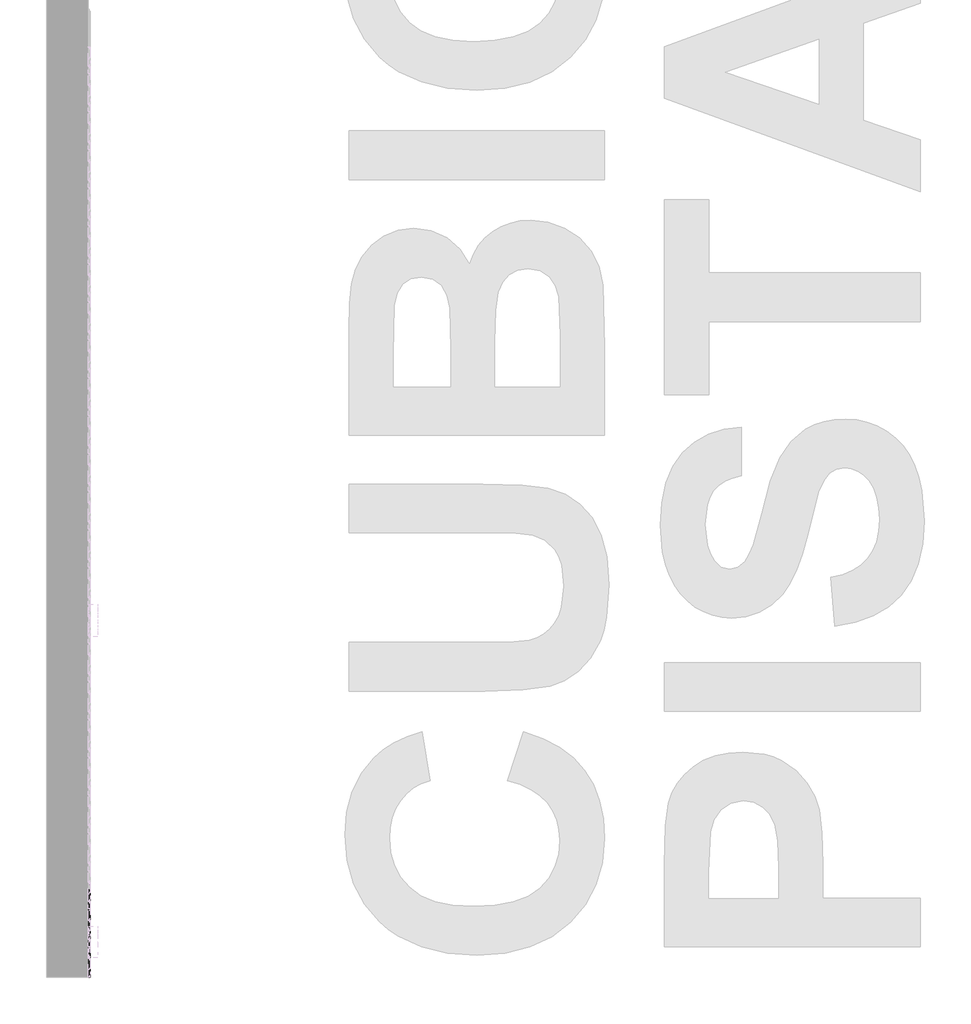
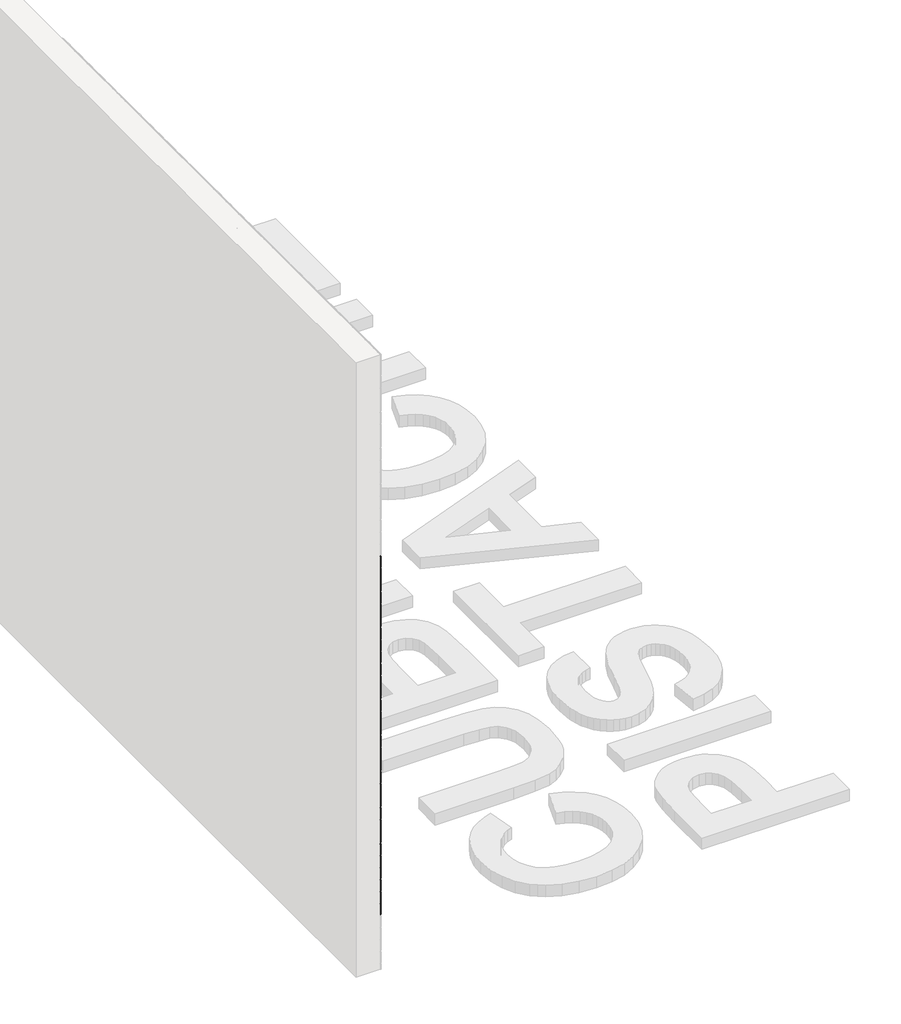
# One storey, part 74 of 121: 145 proxies.
"""IFC4 building model written with IfcOpenShell, lengths in millimetres."""

from ifc_helpers import new_model, si_unit, origin, place, context, project, spatial, transform, mapped, element, save
from components import generic_models_b2b2c5c1, generic_models_9bf73f6f, generic_models_5d175859, generic_models_45888c4d

model = new_model("IFC4")

# Units and contexts
model_context = context("Model", 3, world=origin())
ifc_project = project(units=[si_unit("LENGTHUNIT", "METRE", prefix="MILLI")], contexts=[model_context])

# Site, building, storey
site = spatial("IfcSite", under=ifc_project)
building = spatial("IfcBuilding", under=site)
storey = spatial("IfcBuildingStorey", under=building, Name="PORTOBELLO - SHOWROOM", Elevation=0.0)

# Proxies
placement = place(None, origin())
generic_models_shape = generic_models_b2b2c5c1(model_context)
element("IfcBuildingElementProxy", 1, Name="PBSHOP - CUBICA PISTACHE 4,8X8,3 : CUBICA PISTACHE - POSIÇÃO 01", ObjectType="PBSHOP - CUBICA PISTACHE 4,8X8,3 : CUBICA PISTACHE - POSIÇÃO 01", at=placement, inside=storey, context=model_context, shape_type="MappedRepresentation", body=[
    mapped(generic_models_shape, transform((150369.5341846, 12796.5477456, 355.1607203), x_axis=(0.0, 1.0, 0.0), y_axis=(0.0, 0.0, 1.0), z_axis=(1.0, 0.0, 0.0))),
])
element("IfcBuildingElementProxy", 2, Name="PBSHOP - CUBICA PISTACHE 4,8X8,3 : CUBICA PISTACHE - POSIÇÃO 01", ObjectType="PBSHOP - CUBICA PISTACHE 4,8X8,3 : CUBICA PISTACHE - POSIÇÃO 01", at=placement, inside=storey, context=model_context, shape_type="MappedRepresentation", body=[
    mapped(generic_models_shape, transform((150369.5341846, 12887.3870148, 355.1607203), x_axis=(0.0, 1.0, 0.0), y_axis=(0.0, 0.0, 1.0), z_axis=(1.0, 0.0, 0.0))),
])
element("IfcBuildingElementProxy", 3, Name="PBSHOP - CUBICA PISTACHE 4,8X8,3 : CUBICA PISTACHE - POSIÇÃO 01", ObjectType="PBSHOP - CUBICA PISTACHE 4,8X8,3 : CUBICA PISTACHE - POSIÇÃO 01", at=placement, inside=storey, context=model_context, shape_type="MappedRepresentation", body=[
    mapped(generic_models_shape, transform((150369.5341846, 12978.2262841, 355.1607203), x_axis=(0.0, 1.0, 0.0), y_axis=(0.0, 0.0, 1.0), z_axis=(1.0, 0.0, 0.0))),
])
element("IfcBuildingElementProxy", 4, Name="PBSHOP - CUBICA PISTACHE 4,8X8,3 : CUBICA PISTACHE - POSIÇÃO 01", ObjectType="PBSHOP - CUBICA PISTACHE 4,8X8,3 : CUBICA PISTACHE - POSIÇÃO 01", at=placement, inside=storey, context=model_context, shape_type="MappedRepresentation", body=[
    mapped(generic_models_shape, transform((150369.5341846, 12841.9673802, 434.0953587), x_axis=(0.0, 1.0, 0.0), y_axis=(0.0, 0.0, 1.0), z_axis=(1.0, 0.0, 0.0))),
])
element("IfcBuildingElementProxy", 5, Name="PBSHOP - CUBICA PISTACHE 4,8X8,3 : CUBICA PISTACHE - POSIÇÃO 01", ObjectType="PBSHOP - CUBICA PISTACHE 4,8X8,3 : CUBICA PISTACHE - POSIÇÃO 01", at=placement, inside=storey, context=model_context, shape_type="MappedRepresentation", body=[
    mapped(generic_models_shape, transform((150369.5341846, 12932.8066494, 434.0953587), x_axis=(0.0, 1.0, 0.0), y_axis=(0.0, 0.0, 1.0), z_axis=(1.0, 0.0, 0.0))),
])
element("IfcBuildingElementProxy", 6, Name="PBSHOP - CUBICA PISTACHE 4,8X8,3 : CUBICA PISTACHE - POSIÇÃO 01", ObjectType="PBSHOP - CUBICA PISTACHE 4,8X8,3 : CUBICA PISTACHE - POSIÇÃO 01", at=placement, inside=storey, context=model_context, shape_type="MappedRepresentation", body=[
    mapped(generic_models_shape, transform((150369.5341846, 12796.5477456, 513.0299971), x_axis=(0.0, 1.0, 0.0), y_axis=(0.0, 0.0, 1.0), z_axis=(1.0, 0.0, 0.0))),
])
element("IfcBuildingElementProxy", 7, Name="PBSHOP - CUBICA PISTACHE 4,8X8,3 : CUBICA PISTACHE - POSIÇÃO 01", ObjectType="PBSHOP - CUBICA PISTACHE 4,8X8,3 : CUBICA PISTACHE - POSIÇÃO 01", at=placement, inside=storey, context=model_context, shape_type="MappedRepresentation", body=[
    mapped(generic_models_shape, transform((150369.5341846, 12887.3870148, 513.0299971), x_axis=(0.0, 1.0, 0.0), y_axis=(0.0, 0.0, 1.0), z_axis=(1.0, 0.0, 0.0))),
])
element("IfcBuildingElementProxy", 8, Name="PBSHOP - CUBICA PISTACHE 4,8X8,3 : CUBICA PISTACHE - POSIÇÃO 01", ObjectType="PBSHOP - CUBICA PISTACHE 4,8X8,3 : CUBICA PISTACHE - POSIÇÃO 01", at=placement, inside=storey, context=model_context, shape_type="MappedRepresentation", body=[
    mapped(generic_models_shape, transform((150369.5341846, 12978.2262841, 513.0299971), x_axis=(0.0, 1.0, 0.0), y_axis=(0.0, 0.0, 1.0), z_axis=(1.0, 0.0, 0.0))),
])
element("IfcBuildingElementProxy", 9, Name="PBSHOP - CUBICA PISTACHE 4,8X8,3 : CUBICA PISTACHE - POSIÇÃO 01", ObjectType="PBSHOP - CUBICA PISTACHE 4,8X8,3 : CUBICA PISTACHE - POSIÇÃO 01", at=placement, inside=storey, context=model_context, shape_type="MappedRepresentation", body=[
    mapped(generic_models_shape, transform((150369.5341846, 12841.9673802, 591.9646354), x_axis=(0.0, 1.0, 0.0), y_axis=(0.0, 0.0, 1.0), z_axis=(1.0, 0.0, 0.0))),
])
element("IfcBuildingElementProxy", 10, Name="PBSHOP - CUBICA PISTACHE 4,8X8,3 : CUBICA PISTACHE - POSIÇÃO 01", ObjectType="PBSHOP - CUBICA PISTACHE 4,8X8,3 : CUBICA PISTACHE - POSIÇÃO 01", at=placement, inside=storey, context=model_context, shape_type="MappedRepresentation", body=[
    mapped(generic_models_shape, transform((150369.5341846, 12932.8066494, 591.9646354), x_axis=(0.0, 1.0, 0.0), y_axis=(0.0, 0.0, 1.0), z_axis=(1.0, 0.0, 0.0))),
])
element("IfcBuildingElementProxy", 11, Name="PBSHOP - CUBICA PISTACHE 4,8X8,3 : CUBICA PISTACHE - POSIÇÃO 01", ObjectType="PBSHOP - CUBICA PISTACHE 4,8X8,3 : CUBICA PISTACHE - POSIÇÃO 01", at=placement, inside=storey, context=model_context, shape_type="MappedRepresentation", body=[
    mapped(generic_models_shape, transform((150369.5341846, 12796.5477456, 670.8992738), x_axis=(0.0, 1.0, 0.0), y_axis=(0.0, 0.0, 1.0), z_axis=(1.0, 0.0, 0.0))),
])
element("IfcBuildingElementProxy", 12, Name="PBSHOP - CUBICA PISTACHE 4,8X8,3 : CUBICA PISTACHE - POSIÇÃO 01", ObjectType="PBSHOP - CUBICA PISTACHE 4,8X8,3 : CUBICA PISTACHE - POSIÇÃO 01", at=placement, inside=storey, context=model_context, shape_type="MappedRepresentation", body=[
    mapped(generic_models_shape, transform((150369.5341846, 12887.3870148, 670.8992738), x_axis=(0.0, 1.0, 0.0), y_axis=(0.0, 0.0, 1.0), z_axis=(1.0, 0.0, 0.0))),
])
element("IfcBuildingElementProxy", 13, Name="PBSHOP - CUBICA PISTACHE 4,8X8,3 : CUBICA PISTACHE - POSIÇÃO 01", ObjectType="PBSHOP - CUBICA PISTACHE 4,8X8,3 : CUBICA PISTACHE - POSIÇÃO 01", at=placement, inside=storey, context=model_context, shape_type="MappedRepresentation", body=[
    mapped(generic_models_shape, transform((150369.5341846, 12978.2262841, 670.8992738), x_axis=(0.0, 1.0, 0.0), y_axis=(0.0, 0.0, 1.0), z_axis=(1.0, 0.0, 0.0))),
])
element("IfcBuildingElementProxy", 14, Name="PBSHOP - CUBICA PISTACHE 4,8X8,3 : CUBICA PISTACHE - POSIÇÃO 01", ObjectType="PBSHOP - CUBICA PISTACHE 4,8X8,3 : CUBICA PISTACHE - POSIÇÃO 01", at=placement, inside=storey, context=model_context, shape_type="MappedRepresentation", body=[
    mapped(generic_models_shape, transform((150369.5341846, 12841.9673802, 749.8339122), x_axis=(0.0, 1.0, 0.0), y_axis=(0.0, 0.0, 1.0), z_axis=(1.0, 0.0, 0.0))),
])
element("IfcBuildingElementProxy", 15, Name="PBSHOP - CUBICA PISTACHE 4,8X8,3 : CUBICA PISTACHE - POSIÇÃO 01", ObjectType="PBSHOP - CUBICA PISTACHE 4,8X8,3 : CUBICA PISTACHE - POSIÇÃO 01", at=placement, inside=storey, context=model_context, shape_type="MappedRepresentation", body=[
    mapped(generic_models_shape, transform((150369.5341846, 12932.8066494, 749.8339122), x_axis=(0.0, 1.0, 0.0), y_axis=(0.0, 0.0, 1.0), z_axis=(1.0, 0.0, 0.0))),
])
element("IfcBuildingElementProxy", 16, Name="PBSHOP - CUBICA PISTACHE 4,8X8,3 : CUBICA PISTACHE - POSIÇÃO 01", ObjectType="PBSHOP - CUBICA PISTACHE 4,8X8,3 : CUBICA PISTACHE - POSIÇÃO 01", at=placement, inside=storey, context=model_context, shape_type="MappedRepresentation", body=[
    mapped(generic_models_shape, transform((150369.5341846, 12796.5477456, 828.7685506), x_axis=(0.0, 1.0, 0.0), y_axis=(0.0, 0.0, 1.0), z_axis=(1.0, 0.0, 0.0))),
])
element("IfcBuildingElementProxy", 17, Name="PBSHOP - CUBICA PISTACHE 4,8X8,3 : CUBICA PISTACHE - POSIÇÃO 01", ObjectType="PBSHOP - CUBICA PISTACHE 4,8X8,3 : CUBICA PISTACHE - POSIÇÃO 01", at=placement, inside=storey, context=model_context, shape_type="MappedRepresentation", body=[
    mapped(generic_models_shape, transform((150369.5341846, 12887.3870148, 828.7685506), x_axis=(0.0, 1.0, 0.0), y_axis=(0.0, 0.0, 1.0), z_axis=(1.0, 0.0, 0.0))),
])
element("IfcBuildingElementProxy", 18, Name="PBSHOP - CUBICA PISTACHE 4,8X8,3 : CUBICA PISTACHE - POSIÇÃO 01", ObjectType="PBSHOP - CUBICA PISTACHE 4,8X8,3 : CUBICA PISTACHE - POSIÇÃO 01", at=placement, inside=storey, context=model_context, shape_type="MappedRepresentation", body=[
    mapped(generic_models_shape, transform((150369.5341846, 12978.2262841, 828.7685506), x_axis=(0.0, 1.0, 0.0), y_axis=(0.0, 0.0, 1.0), z_axis=(1.0, 0.0, 0.0))),
])
element("IfcBuildingElementProxy", 19, Name="PBSHOP - CUBICA PISTACHE 4,8X8,3 : CUBICA PISTACHE - POSIÇÃO 01", ObjectType="PBSHOP - CUBICA PISTACHE 4,8X8,3 : CUBICA PISTACHE - POSIÇÃO 01", at=placement, inside=storey, context=model_context, shape_type="MappedRepresentation", body=[
    mapped(generic_models_shape, transform((150369.5341846, 12841.9673802, 907.7031889), x_axis=(0.0, 1.0, 0.0), y_axis=(0.0, 0.0, 1.0), z_axis=(1.0, 0.0, 0.0))),
])
element("IfcBuildingElementProxy", 20, Name="PBSHOP - CUBICA PISTACHE 4,8X8,3 : CUBICA PISTACHE - POSIÇÃO 01", ObjectType="PBSHOP - CUBICA PISTACHE 4,8X8,3 : CUBICA PISTACHE - POSIÇÃO 01", at=placement, inside=storey, context=model_context, shape_type="MappedRepresentation", body=[
    mapped(generic_models_shape, transform((150369.5341846, 12932.8066494, 907.7031889), x_axis=(0.0, 1.0, 0.0), y_axis=(0.0, 0.0, 1.0), z_axis=(1.0, 0.0, 0.0))),
])
element("IfcBuildingElementProxy", 21, Name="PBSHOP - CUBICA PISTACHE 4,8X8,3 : CUBICA PISTACHE - POSIÇÃO 01", ObjectType="PBSHOP - CUBICA PISTACHE 4,8X8,3 : CUBICA PISTACHE - POSIÇÃO 01", at=placement, inside=storey, context=model_context, shape_type="MappedRepresentation", body=[
    mapped(generic_models_shape, transform((150369.5341846, 12796.5477456, 986.6378273), x_axis=(0.0, 1.0, 0.0), y_axis=(0.0, 0.0, 1.0), z_axis=(1.0, 0.0, 0.0))),
])
element("IfcBuildingElementProxy", 22, Name="PBSHOP - CUBICA PISTACHE 4,8X8,3 : CUBICA PISTACHE - POSIÇÃO 01", ObjectType="PBSHOP - CUBICA PISTACHE 4,8X8,3 : CUBICA PISTACHE - POSIÇÃO 01", at=placement, inside=storey, context=model_context, shape_type="MappedRepresentation", body=[
    mapped(generic_models_shape, transform((150369.5341846, 12887.3870148, 986.6378273), x_axis=(0.0, 1.0, 0.0), y_axis=(0.0, 0.0, 1.0), z_axis=(1.0, 0.0, 0.0))),
])
element("IfcBuildingElementProxy", 23, Name="PBSHOP - CUBICA PISTACHE 4,8X8,3 : CUBICA PISTACHE - POSIÇÃO 01", ObjectType="PBSHOP - CUBICA PISTACHE 4,8X8,3 : CUBICA PISTACHE - POSIÇÃO 01", at=placement, inside=storey, context=model_context, shape_type="MappedRepresentation", body=[
    mapped(generic_models_shape, transform((150369.5341846, 12978.2262841, 986.6378273), x_axis=(0.0, 1.0, 0.0), y_axis=(0.0, 0.0, 1.0), z_axis=(1.0, 0.0, 0.0))),
])
element("IfcBuildingElementProxy", 24, Name="PBSHOP - CUBICA PISTACHE 4,8X8,3 : CUBICA PISTACHE - POSIÇÃO 01", ObjectType="PBSHOP - CUBICA PISTACHE 4,8X8,3 : CUBICA PISTACHE - POSIÇÃO 01", at=placement, inside=storey, context=model_context, shape_type="MappedRepresentation", body=[
    mapped(generic_models_shape, transform((150369.5341846, 12841.9673802, 1065.5724657), x_axis=(0.0, 1.0, 0.0), y_axis=(0.0, 0.0, 1.0), z_axis=(1.0, 0.0, 0.0))),
])
element("IfcBuildingElementProxy", 25, Name="PBSHOP - CUBICA PISTACHE 4,8X8,3 : CUBICA PISTACHE - POSIÇÃO 01", ObjectType="PBSHOP - CUBICA PISTACHE 4,8X8,3 : CUBICA PISTACHE - POSIÇÃO 01", at=placement, inside=storey, context=model_context, shape_type="MappedRepresentation", body=[
    mapped(generic_models_shape, transform((150369.5341846, 12932.8066494, 1065.5724657), x_axis=(0.0, 1.0, 0.0), y_axis=(0.0, 0.0, 1.0), z_axis=(1.0, 0.0, 0.0))),
])
element("IfcBuildingElementProxy", 26, Name="PBSHOP - CUBICA PISTACHE 4,8X8,3 : CUBICA PISTACHE - POSIÇÃO 01", ObjectType="PBSHOP - CUBICA PISTACHE 4,8X8,3 : CUBICA PISTACHE - POSIÇÃO 01", at=placement, inside=storey, context=model_context, shape_type="MappedRepresentation", body=[
    mapped(generic_models_shape, transform((150369.5341846, 12796.5477456, 1144.507104), x_axis=(0.0, 1.0, 0.0), y_axis=(0.0, 0.0, 1.0), z_axis=(1.0, 0.0, 0.0))),
])
element("IfcBuildingElementProxy", 27, Name="PBSHOP - CUBICA PISTACHE 4,8X8,3 : CUBICA PISTACHE - POSIÇÃO 01", ObjectType="PBSHOP - CUBICA PISTACHE 4,8X8,3 : CUBICA PISTACHE - POSIÇÃO 01", at=placement, inside=storey, context=model_context, shape_type="MappedRepresentation", body=[
    mapped(generic_models_shape, transform((150369.5341846, 12887.3870148, 1144.507104), x_axis=(0.0, 1.0, 0.0), y_axis=(0.0, 0.0, 1.0), z_axis=(1.0, 0.0, 0.0))),
])
element("IfcBuildingElementProxy", 28, Name="PBSHOP - CUBICA PISTACHE 4,8X8,3 : CUBICA PISTACHE - POSIÇÃO 01", ObjectType="PBSHOP - CUBICA PISTACHE 4,8X8,3 : CUBICA PISTACHE - POSIÇÃO 01", at=placement, inside=storey, context=model_context, shape_type="MappedRepresentation", body=[
    mapped(generic_models_shape, transform((150369.5341846, 12978.2262841, 1144.507104), x_axis=(0.0, 1.0, 0.0), y_axis=(0.0, 0.0, 1.0), z_axis=(1.0, 0.0, 0.0))),
])
element("IfcBuildingElementProxy", 29, Name="PBSHOP - CUBICA PISTACHE 4,8X8,3 : CUBICA PISTACHE - POSIÇÃO 01", ObjectType="PBSHOP - CUBICA PISTACHE 4,8X8,3 : CUBICA PISTACHE - POSIÇÃO 01", at=placement, inside=storey, context=model_context, shape_type="MappedRepresentation", body=[
    mapped(generic_models_shape, transform((150369.5341846, 12841.9673802, 1223.4417424), x_axis=(0.0, 1.0, 0.0), y_axis=(0.0, 0.0, 1.0), z_axis=(1.0, 0.0, 0.0))),
])
element("IfcBuildingElementProxy", 30, Name="PBSHOP - CUBICA PISTACHE 4,8X8,3 : CUBICA PISTACHE - POSIÇÃO 01", ObjectType="PBSHOP - CUBICA PISTACHE 4,8X8,3 : CUBICA PISTACHE - POSIÇÃO 01", at=placement, inside=storey, context=model_context, shape_type="MappedRepresentation", body=[
    mapped(generic_models_shape, transform((150369.5341846, 12932.8066494, 1223.4417424), x_axis=(0.0, 1.0, 0.0), y_axis=(0.0, 0.0, 1.0), z_axis=(1.0, 0.0, 0.0))),
])
element("IfcBuildingElementProxy", 31, Name="PBSHOP - CUBICA PISTACHE 4,8X8,3 : CUBICA PISTACHE - POSIÇÃO 01", ObjectType="PBSHOP - CUBICA PISTACHE 4,8X8,3 : CUBICA PISTACHE - POSIÇÃO 01", at=placement, inside=storey, context=model_context, shape_type="MappedRepresentation", body=[
    mapped(generic_models_shape, transform((150369.5341846, 12796.5477456, 1302.3763808), x_axis=(0.0, 1.0, 0.0), y_axis=(0.0, 0.0, 1.0), z_axis=(1.0, 0.0, 0.0))),
])
element("IfcBuildingElementProxy", 32, Name="PBSHOP - CUBICA PISTACHE 4,8X8,3 : CUBICA PISTACHE - POSIÇÃO 01", ObjectType="PBSHOP - CUBICA PISTACHE 4,8X8,3 : CUBICA PISTACHE - POSIÇÃO 01", at=placement, inside=storey, context=model_context, shape_type="MappedRepresentation", body=[
    mapped(generic_models_shape, transform((150369.5341846, 12887.3870148, 1302.3763808), x_axis=(0.0, 1.0, 0.0), y_axis=(0.0, 0.0, 1.0), z_axis=(1.0, 0.0, 0.0))),
])
element("IfcBuildingElementProxy", 33, Name="PBSHOP - CUBICA PISTACHE 4,8X8,3 : CUBICA PISTACHE - POSIÇÃO 01", ObjectType="PBSHOP - CUBICA PISTACHE 4,8X8,3 : CUBICA PISTACHE - POSIÇÃO 01", at=placement, inside=storey, context=model_context, shape_type="MappedRepresentation", body=[
    mapped(generic_models_shape, transform((150369.5341846, 12978.2262841, 1302.3763808), x_axis=(0.0, 1.0, 0.0), y_axis=(0.0, 0.0, 1.0), z_axis=(1.0, 0.0, 0.0))),
])
element("IfcBuildingElementProxy", 34, Name="PBSHOP - CUBICA PISTACHE 4,8X8,3 : CUBICA PISTACHE - POSIÇÃO 01", ObjectType="PBSHOP - CUBICA PISTACHE 4,8X8,3 : CUBICA PISTACHE - POSIÇÃO 01", at=placement, inside=storey, context=model_context, shape_type="MappedRepresentation", body=[
    mapped(generic_models_shape, transform((150369.5341846, 12841.9673802, 1381.3110192), x_axis=(0.0, 1.0, 0.0), y_axis=(0.0, 0.0, 1.0), z_axis=(1.0, 0.0, 0.0))),
])
element("IfcBuildingElementProxy", 35, Name="PBSHOP - CUBICA PISTACHE 4,8X8,3 : CUBICA PISTACHE - POSIÇÃO 01", ObjectType="PBSHOP - CUBICA PISTACHE 4,8X8,3 : CUBICA PISTACHE - POSIÇÃO 01", at=placement, inside=storey, context=model_context, shape_type="MappedRepresentation", body=[
    mapped(generic_models_shape, transform((150369.5341846, 12932.8066494, 1381.3110192), x_axis=(0.0, 1.0, 0.0), y_axis=(0.0, 0.0, 1.0), z_axis=(1.0, 0.0, 0.0))),
])
element("IfcBuildingElementProxy", 36, Name="PBSHOP - CUBICA PISTACHE 4,8X8,3 : CUBICA PISTACHE - POSIÇÃO 01", ObjectType="PBSHOP - CUBICA PISTACHE 4,8X8,3 : CUBICA PISTACHE - POSIÇÃO 01", at=placement, inside=storey, context=model_context, shape_type="MappedRepresentation", body=[
    mapped(generic_models_shape, transform((150369.5341846, 12796.5477456, 1460.2456575), x_axis=(0.0, 1.0, 0.0), y_axis=(0.0, 0.0, 1.0), z_axis=(1.0, 0.0, 0.0))),
])
element("IfcBuildingElementProxy", 37, Name="PBSHOP - CUBICA PISTACHE 4,8X8,3 : CUBICA PISTACHE - POSIÇÃO 01", ObjectType="PBSHOP - CUBICA PISTACHE 4,8X8,3 : CUBICA PISTACHE - POSIÇÃO 01", at=placement, inside=storey, context=model_context, shape_type="MappedRepresentation", body=[
    mapped(generic_models_shape, transform((150369.5341846, 12887.3870148, 1460.2456575), x_axis=(0.0, 1.0, 0.0), y_axis=(0.0, 0.0, 1.0), z_axis=(1.0, 0.0, 0.0))),
])
element("IfcBuildingElementProxy", 38, Name="PBSHOP - CUBICA PISTACHE 4,8X8,3 : CUBICA PISTACHE - POSIÇÃO 01", ObjectType="PBSHOP - CUBICA PISTACHE 4,8X8,3 : CUBICA PISTACHE - POSIÇÃO 01", at=placement, inside=storey, context=model_context, shape_type="MappedRepresentation", body=[
    mapped(generic_models_shape, transform((150369.5341846, 12978.2262841, 1460.2456575), x_axis=(0.0, 1.0, 0.0), y_axis=(0.0, 0.0, 1.0), z_axis=(1.0, 0.0, 0.0))),
])
element("IfcBuildingElementProxy", 39, Name="PBSHOP - CUBICA PISTACHE 4,8X8,3 : CUBICA PISTACHE - POSIÇÃO 01", ObjectType="PBSHOP - CUBICA PISTACHE 4,8X8,3 : CUBICA PISTACHE - POSIÇÃO 01", at=placement, inside=storey, context=model_context, shape_type="MappedRepresentation", body=[
    mapped(generic_models_shape, transform((150369.5341846, 12841.9673802, 1539.1802959), x_axis=(0.0, 1.0, 0.0), y_axis=(0.0, 0.0, 1.0), z_axis=(1.0, 0.0, 0.0))),
])
element("IfcBuildingElementProxy", 40, Name="PBSHOP - CUBICA PISTACHE 4,8X8,3 : CUBICA PISTACHE - POSIÇÃO 01", ObjectType="PBSHOP - CUBICA PISTACHE 4,8X8,3 : CUBICA PISTACHE - POSIÇÃO 01", at=placement, inside=storey, context=model_context, shape_type="MappedRepresentation", body=[
    mapped(generic_models_shape, transform((150369.5341846, 12932.8066494, 1539.1802959), x_axis=(0.0, 1.0, 0.0), y_axis=(0.0, 0.0, 1.0), z_axis=(1.0, 0.0, 0.0))),
])
element("IfcBuildingElementProxy", 41, Name="PBSHOP - CUBICA PISTACHE 4,8X8,3 : CUBICA PISTACHE - POSIÇÃO 01", ObjectType="PBSHOP - CUBICA PISTACHE 4,8X8,3 : CUBICA PISTACHE - POSIÇÃO 01", at=placement, inside=storey, context=model_context, shape_type="MappedRepresentation", body=[
    mapped(generic_models_shape, transform((150369.5341846, 12796.5477456, 1618.1149343), x_axis=(0.0, 1.0, 0.0), y_axis=(0.0, 0.0, 1.0), z_axis=(1.0, 0.0, 0.0))),
])
element("IfcBuildingElementProxy", 42, Name="PBSHOP - CUBICA PISTACHE 4,8X8,3 : CUBICA PISTACHE - POSIÇÃO 01", ObjectType="PBSHOP - CUBICA PISTACHE 4,8X8,3 : CUBICA PISTACHE - POSIÇÃO 01", at=placement, inside=storey, context=model_context, shape_type="MappedRepresentation", body=[
    mapped(generic_models_shape, transform((150369.5341846, 12887.3870148, 1618.1149343), x_axis=(0.0, 1.0, 0.0), y_axis=(0.0, 0.0, 1.0), z_axis=(1.0, 0.0, 0.0))),
])
element("IfcBuildingElementProxy", 43, Name="PBSHOP - CUBICA PISTACHE 4,8X8,3 : CUBICA PISTACHE - POSIÇÃO 01", ObjectType="PBSHOP - CUBICA PISTACHE 4,8X8,3 : CUBICA PISTACHE - POSIÇÃO 01", at=placement, inside=storey, context=model_context, shape_type="MappedRepresentation", body=[
    mapped(generic_models_shape, transform((150369.5341846, 12978.2262841, 1618.1149343), x_axis=(0.0, 1.0, 0.0), y_axis=(0.0, 0.0, 1.0), z_axis=(1.0, 0.0, 0.0))),
])
element("IfcBuildingElementProxy", 44, Name="PBSHOP - CUBICA PISTACHE 4,8X8,3 : CUBICA PISTACHE - POSIÇÃO 01", ObjectType="PBSHOP - CUBICA PISTACHE 4,8X8,3 : CUBICA PISTACHE - POSIÇÃO 01", at=placement, inside=storey, context=model_context, shape_type="MappedRepresentation", body=[
    mapped(generic_models_shape, transform((150369.5341846, 12841.9673802, 1697.0495727), x_axis=(0.0, 1.0, 0.0), y_axis=(0.0, 0.0, 1.0), z_axis=(1.0, 0.0, 0.0))),
])
element("IfcBuildingElementProxy", 45, Name="PBSHOP - CUBICA PISTACHE 4,8X8,3 : CUBICA PISTACHE - POSIÇÃO 01", ObjectType="PBSHOP - CUBICA PISTACHE 4,8X8,3 : CUBICA PISTACHE - POSIÇÃO 01", at=placement, inside=storey, context=model_context, shape_type="MappedRepresentation", body=[
    mapped(generic_models_shape, transform((150369.5341846, 12932.8066494, 1697.0495727), x_axis=(0.0, 1.0, 0.0), y_axis=(0.0, 0.0, 1.0), z_axis=(1.0, 0.0, 0.0))),
])
element("IfcBuildingElementProxy", 46, Name="PBSHOP - CUBICA PISTACHE 4,8X8,3 : CUBICA PISTACHE - POSIÇÃO 01", ObjectType="PBSHOP - CUBICA PISTACHE 4,8X8,3 : CUBICA PISTACHE - POSIÇÃO 01", at=placement, inside=storey, context=model_context, shape_type="MappedRepresentation", body=[
    mapped(generic_models_shape, transform((150369.5341846, 12796.5477456, 1775.984211), x_axis=(0.0, 1.0, 0.0), y_axis=(0.0, 0.0, 1.0), z_axis=(1.0, 0.0, 0.0))),
])
element("IfcBuildingElementProxy", 47, Name="PBSHOP - CUBICA PISTACHE 4,8X8,3 : CUBICA PISTACHE - POSIÇÃO 01", ObjectType="PBSHOP - CUBICA PISTACHE 4,8X8,3 : CUBICA PISTACHE - POSIÇÃO 01", at=placement, inside=storey, context=model_context, shape_type="MappedRepresentation", body=[
    mapped(generic_models_shape, transform((150369.5341846, 12887.3870148, 1775.984211), x_axis=(0.0, 1.0, 0.0), y_axis=(0.0, 0.0, 1.0), z_axis=(1.0, 0.0, 0.0))),
])
element("IfcBuildingElementProxy", 48, Name="PBSHOP - CUBICA PISTACHE 4,8X8,3 : CUBICA PISTACHE - POSIÇÃO 01", ObjectType="PBSHOP - CUBICA PISTACHE 4,8X8,3 : CUBICA PISTACHE - POSIÇÃO 01", at=placement, inside=storey, context=model_context, shape_type="MappedRepresentation", body=[
    mapped(generic_models_shape, transform((150369.5341846, 12978.2262841, 1775.984211), x_axis=(0.0, 1.0, 0.0), y_axis=(0.0, 0.0, 1.0), z_axis=(1.0, 0.0, 0.0))),
])
generic_models_2_shape = generic_models_9bf73f6f(model_context)
element("IfcBuildingElementProxy", 49, Name="PBSHOP - CUBICA PISTACHE 4,8X8,3 : CUBICA PISTACHE - POSIÇÃO 03", ObjectType="PBSHOP - CUBICA PISTACHE 4,8X8,3 : CUBICA PISTACHE - POSIÇÃO 03", at=placement, inside=storey, context=model_context, shape_type="MappedRepresentation", body=[
    mapped(generic_models_2_shape, transform((150369.5341846, 12819.259722, 236.7175523), x_axis=(0.0, 1.0, 0.0), y_axis=(0.0, 0.0, 1.0), z_axis=(1.0, 0.0, 0.0))),
])
element("IfcBuildingElementProxy", 50, Name="PBSHOP - CUBICA PISTACHE 4,8X8,3 : CUBICA PISTACHE - POSIÇÃO 03", ObjectType="PBSHOP - CUBICA PISTACHE 4,8X8,3 : CUBICA PISTACHE - POSIÇÃO 03", at=placement, inside=storey, context=model_context, shape_type="MappedRepresentation", body=[
    mapped(generic_models_2_shape, transform((150369.5341846, 12910.0989913, 236.7175523), x_axis=(0.0, 1.0, 0.0), y_axis=(0.0, 0.0, 1.0), z_axis=(1.0, 0.0, 0.0))),
])
element("IfcBuildingElementProxy", 51, Name="PBSHOP - CUBICA PISTACHE 4,8X8,3 : CUBICA PISTACHE - POSIÇÃO 03", ObjectType="PBSHOP - CUBICA PISTACHE 4,8X8,3 : CUBICA PISTACHE - POSIÇÃO 03", at=placement, inside=storey, context=model_context, shape_type="MappedRepresentation", body=[
    mapped(generic_models_2_shape, transform((150369.5341846, 12864.6793567, 315.6521907), x_axis=(0.0, 1.0, 0.0), y_axis=(0.0, 0.0, 1.0), z_axis=(1.0, 0.0, 0.0))),
])
element("IfcBuildingElementProxy", 52, Name="PBSHOP - CUBICA PISTACHE 4,8X8,3 : CUBICA PISTACHE - POSIÇÃO 03", ObjectType="PBSHOP - CUBICA PISTACHE 4,8X8,3 : CUBICA PISTACHE - POSIÇÃO 03", at=placement, inside=storey, context=model_context, shape_type="MappedRepresentation", body=[
    mapped(generic_models_2_shape, transform((150369.5341846, 12955.5186259, 315.6521907), x_axis=(0.0, 1.0, 0.0), y_axis=(0.0, 0.0, 1.0), z_axis=(1.0, 0.0, 0.0))),
])
element("IfcBuildingElementProxy", 53, Name="PBSHOP - CUBICA PISTACHE 4,8X8,3 : CUBICA PISTACHE - POSIÇÃO 03", ObjectType="PBSHOP - CUBICA PISTACHE 4,8X8,3 : CUBICA PISTACHE - POSIÇÃO 03", at=placement, inside=storey, context=model_context, shape_type="MappedRepresentation", body=[
    mapped(generic_models_2_shape, transform((150369.5341846, 12819.259722, 394.5868291), x_axis=(0.0, 1.0, 0.0), y_axis=(0.0, 0.0, 1.0), z_axis=(1.0, 0.0, 0.0))),
])
element("IfcBuildingElementProxy", 54, Name="PBSHOP - CUBICA PISTACHE 4,8X8,3 : CUBICA PISTACHE - POSIÇÃO 03", ObjectType="PBSHOP - CUBICA PISTACHE 4,8X8,3 : CUBICA PISTACHE - POSIÇÃO 03", at=placement, inside=storey, context=model_context, shape_type="MappedRepresentation", body=[
    mapped(generic_models_2_shape, transform((150369.5341846, 12910.0989913, 394.5868291), x_axis=(0.0, 1.0, 0.0), y_axis=(0.0, 0.0, 1.0), z_axis=(1.0, 0.0, 0.0))),
])
element("IfcBuildingElementProxy", 55, Name="PBSHOP - CUBICA PISTACHE 4,8X8,3 : CUBICA PISTACHE - POSIÇÃO 03", ObjectType="PBSHOP - CUBICA PISTACHE 4,8X8,3 : CUBICA PISTACHE - POSIÇÃO 03", at=placement, inside=storey, context=model_context, shape_type="MappedRepresentation", body=[
    mapped(generic_models_2_shape, transform((150369.5341846, 12864.6793567, 473.5214674), x_axis=(0.0, 1.0, 0.0), y_axis=(0.0, 0.0, 1.0), z_axis=(1.0, 0.0, 0.0))),
])
element("IfcBuildingElementProxy", 56, Name="PBSHOP - CUBICA PISTACHE 4,8X8,3 : CUBICA PISTACHE - POSIÇÃO 03", ObjectType="PBSHOP - CUBICA PISTACHE 4,8X8,3 : CUBICA PISTACHE - POSIÇÃO 03", at=placement, inside=storey, context=model_context, shape_type="MappedRepresentation", body=[
    mapped(generic_models_2_shape, transform((150369.5341846, 12955.5186259, 473.5214674), x_axis=(0.0, 1.0, 0.0), y_axis=(0.0, 0.0, 1.0), z_axis=(1.0, 0.0, 0.0))),
])
element("IfcBuildingElementProxy", 57, Name="PBSHOP - CUBICA PISTACHE 4,8X8,3 : CUBICA PISTACHE - POSIÇÃO 03", ObjectType="PBSHOP - CUBICA PISTACHE 4,8X8,3 : CUBICA PISTACHE - POSIÇÃO 03", at=placement, inside=storey, context=model_context, shape_type="MappedRepresentation", body=[
    mapped(generic_models_2_shape, transform((150369.5341846, 12819.259722, 552.4561058), x_axis=(0.0, 1.0, 0.0), y_axis=(0.0, 0.0, 1.0), z_axis=(1.0, 0.0, 0.0))),
])
element("IfcBuildingElementProxy", 58, Name="PBSHOP - CUBICA PISTACHE 4,8X8,3 : CUBICA PISTACHE - POSIÇÃO 03", ObjectType="PBSHOP - CUBICA PISTACHE 4,8X8,3 : CUBICA PISTACHE - POSIÇÃO 03", at=placement, inside=storey, context=model_context, shape_type="MappedRepresentation", body=[
    mapped(generic_models_2_shape, transform((150369.5341846, 12910.0989913, 552.4561058), x_axis=(0.0, 1.0, 0.0), y_axis=(0.0, 0.0, 1.0), z_axis=(1.0, 0.0, 0.0))),
])
element("IfcBuildingElementProxy", 59, Name="PBSHOP - CUBICA PISTACHE 4,8X8,3 : CUBICA PISTACHE - POSIÇÃO 03", ObjectType="PBSHOP - CUBICA PISTACHE 4,8X8,3 : CUBICA PISTACHE - POSIÇÃO 03", at=placement, inside=storey, context=model_context, shape_type="MappedRepresentation", body=[
    mapped(generic_models_2_shape, transform((150369.5341846, 12864.6793567, 631.3907442), x_axis=(0.0, 1.0, 0.0), y_axis=(0.0, 0.0, 1.0), z_axis=(1.0, 0.0, 0.0))),
])
element("IfcBuildingElementProxy", 60, Name="PBSHOP - CUBICA PISTACHE 4,8X8,3 : CUBICA PISTACHE - POSIÇÃO 03", ObjectType="PBSHOP - CUBICA PISTACHE 4,8X8,3 : CUBICA PISTACHE - POSIÇÃO 03", at=placement, inside=storey, context=model_context, shape_type="MappedRepresentation", body=[
    mapped(generic_models_2_shape, transform((150369.5341846, 12955.5186259, 631.3907442), x_axis=(0.0, 1.0, 0.0), y_axis=(0.0, 0.0, 1.0), z_axis=(1.0, 0.0, 0.0))),
])
element("IfcBuildingElementProxy", 61, Name="PBSHOP - CUBICA PISTACHE 4,8X8,3 : CUBICA PISTACHE - POSIÇÃO 03", ObjectType="PBSHOP - CUBICA PISTACHE 4,8X8,3 : CUBICA PISTACHE - POSIÇÃO 03", at=placement, inside=storey, context=model_context, shape_type="MappedRepresentation", body=[
    mapped(generic_models_2_shape, transform((150369.5341846, 12819.259722, 710.3253826), x_axis=(0.0, 1.0, 0.0), y_axis=(0.0, 0.0, 1.0), z_axis=(1.0, 0.0, 0.0))),
])
element("IfcBuildingElementProxy", 62, Name="PBSHOP - CUBICA PISTACHE 4,8X8,3 : CUBICA PISTACHE - POSIÇÃO 03", ObjectType="PBSHOP - CUBICA PISTACHE 4,8X8,3 : CUBICA PISTACHE - POSIÇÃO 03", at=placement, inside=storey, context=model_context, shape_type="MappedRepresentation", body=[
    mapped(generic_models_2_shape, transform((150369.5341846, 12910.0989913, 710.3253826), x_axis=(0.0, 1.0, 0.0), y_axis=(0.0, 0.0, 1.0), z_axis=(1.0, 0.0, 0.0))),
])
element("IfcBuildingElementProxy", 63, Name="PBSHOP - CUBICA PISTACHE 4,8X8,3 : CUBICA PISTACHE - POSIÇÃO 03", ObjectType="PBSHOP - CUBICA PISTACHE 4,8X8,3 : CUBICA PISTACHE - POSIÇÃO 03", at=placement, inside=storey, context=model_context, shape_type="MappedRepresentation", body=[
    mapped(generic_models_2_shape, transform((150369.5341846, 12864.6793567, 789.2600209), x_axis=(0.0, 1.0, 0.0), y_axis=(0.0, 0.0, 1.0), z_axis=(1.0, 0.0, 0.0))),
])
element("IfcBuildingElementProxy", 64, Name="PBSHOP - CUBICA PISTACHE 4,8X8,3 : CUBICA PISTACHE - POSIÇÃO 03", ObjectType="PBSHOP - CUBICA PISTACHE 4,8X8,3 : CUBICA PISTACHE - POSIÇÃO 03", at=placement, inside=storey, context=model_context, shape_type="MappedRepresentation", body=[
    mapped(generic_models_2_shape, transform((150369.5341846, 12955.5186259, 789.2600209), x_axis=(0.0, 1.0, 0.0), y_axis=(0.0, 0.0, 1.0), z_axis=(1.0, 0.0, 0.0))),
])
element("IfcBuildingElementProxy", 65, Name="PBSHOP - CUBICA PISTACHE 4,8X8,3 : CUBICA PISTACHE - POSIÇÃO 03", ObjectType="PBSHOP - CUBICA PISTACHE 4,8X8,3 : CUBICA PISTACHE - POSIÇÃO 03", at=placement, inside=storey, context=model_context, shape_type="MappedRepresentation", body=[
    mapped(generic_models_2_shape, transform((150369.5341846, 12819.259722, 868.1946593), x_axis=(0.0, 1.0, 0.0), y_axis=(0.0, 0.0, 1.0), z_axis=(1.0, 0.0, 0.0))),
])
element("IfcBuildingElementProxy", 66, Name="PBSHOP - CUBICA PISTACHE 4,8X8,3 : CUBICA PISTACHE - POSIÇÃO 03", ObjectType="PBSHOP - CUBICA PISTACHE 4,8X8,3 : CUBICA PISTACHE - POSIÇÃO 03", at=placement, inside=storey, context=model_context, shape_type="MappedRepresentation", body=[
    mapped(generic_models_2_shape, transform((150369.5341846, 12910.0989913, 868.1946593), x_axis=(0.0, 1.0, 0.0), y_axis=(0.0, 0.0, 1.0), z_axis=(1.0, 0.0, 0.0))),
])
element("IfcBuildingElementProxy", 67, Name="PBSHOP - CUBICA PISTACHE 4,8X8,3 : CUBICA PISTACHE - POSIÇÃO 03", ObjectType="PBSHOP - CUBICA PISTACHE 4,8X8,3 : CUBICA PISTACHE - POSIÇÃO 03", at=placement, inside=storey, context=model_context, shape_type="MappedRepresentation", body=[
    mapped(generic_models_2_shape, transform((150369.5341846, 12864.6793567, 947.1292977), x_axis=(0.0, 1.0, 0.0), y_axis=(0.0, 0.0, 1.0), z_axis=(1.0, 0.0, 0.0))),
])
element("IfcBuildingElementProxy", 68, Name="PBSHOP - CUBICA PISTACHE 4,8X8,3 : CUBICA PISTACHE - POSIÇÃO 03", ObjectType="PBSHOP - CUBICA PISTACHE 4,8X8,3 : CUBICA PISTACHE - POSIÇÃO 03", at=placement, inside=storey, context=model_context, shape_type="MappedRepresentation", body=[
    mapped(generic_models_2_shape, transform((150369.5341846, 12955.5186259, 947.1292977), x_axis=(0.0, 1.0, 0.0), y_axis=(0.0, 0.0, 1.0), z_axis=(1.0, 0.0, 0.0))),
])
element("IfcBuildingElementProxy", 69, Name="PBSHOP - CUBICA PISTACHE 4,8X8,3 : CUBICA PISTACHE - POSIÇÃO 03", ObjectType="PBSHOP - CUBICA PISTACHE 4,8X8,3 : CUBICA PISTACHE - POSIÇÃO 03", at=placement, inside=storey, context=model_context, shape_type="MappedRepresentation", body=[
    mapped(generic_models_2_shape, transform((150369.5341846, 12819.259722, 1026.0639361), x_axis=(0.0, 1.0, 0.0), y_axis=(0.0, 0.0, 1.0), z_axis=(1.0, 0.0, 0.0))),
])
element("IfcBuildingElementProxy", 70, Name="PBSHOP - CUBICA PISTACHE 4,8X8,3 : CUBICA PISTACHE - POSIÇÃO 03", ObjectType="PBSHOP - CUBICA PISTACHE 4,8X8,3 : CUBICA PISTACHE - POSIÇÃO 03", at=placement, inside=storey, context=model_context, shape_type="MappedRepresentation", body=[
    mapped(generic_models_2_shape, transform((150369.5341846, 12910.0989913, 1026.0639361), x_axis=(0.0, 1.0, 0.0), y_axis=(0.0, 0.0, 1.0), z_axis=(1.0, 0.0, 0.0))),
])
element("IfcBuildingElementProxy", 71, Name="PBSHOP - CUBICA PISTACHE 4,8X8,3 : CUBICA PISTACHE - POSIÇÃO 03", ObjectType="PBSHOP - CUBICA PISTACHE 4,8X8,3 : CUBICA PISTACHE - POSIÇÃO 03", at=placement, inside=storey, context=model_context, shape_type="MappedRepresentation", body=[
    mapped(generic_models_2_shape, transform((150369.5341846, 12864.6793567, 1104.9985744), x_axis=(0.0, 1.0, 0.0), y_axis=(0.0, 0.0, 1.0), z_axis=(1.0, 0.0, 0.0))),
])
element("IfcBuildingElementProxy", 72, Name="PBSHOP - CUBICA PISTACHE 4,8X8,3 : CUBICA PISTACHE - POSIÇÃO 03", ObjectType="PBSHOP - CUBICA PISTACHE 4,8X8,3 : CUBICA PISTACHE - POSIÇÃO 03", at=placement, inside=storey, context=model_context, shape_type="MappedRepresentation", body=[
    mapped(generic_models_2_shape, transform((150369.5341846, 12955.5186259, 1104.9985744), x_axis=(0.0, 1.0, 0.0), y_axis=(0.0, 0.0, 1.0), z_axis=(1.0, 0.0, 0.0))),
])
element("IfcBuildingElementProxy", 73, Name="PBSHOP - CUBICA PISTACHE 4,8X8,3 : CUBICA PISTACHE - POSIÇÃO 03", ObjectType="PBSHOP - CUBICA PISTACHE 4,8X8,3 : CUBICA PISTACHE - POSIÇÃO 03", at=placement, inside=storey, context=model_context, shape_type="MappedRepresentation", body=[
    mapped(generic_models_2_shape, transform((150369.5341846, 12819.259722, 1183.9332128), x_axis=(0.0, 1.0, 0.0), y_axis=(0.0, 0.0, 1.0), z_axis=(1.0, 0.0, 0.0))),
])
element("IfcBuildingElementProxy", 74, Name="PBSHOP - CUBICA PISTACHE 4,8X8,3 : CUBICA PISTACHE - POSIÇÃO 03", ObjectType="PBSHOP - CUBICA PISTACHE 4,8X8,3 : CUBICA PISTACHE - POSIÇÃO 03", at=placement, inside=storey, context=model_context, shape_type="MappedRepresentation", body=[
    mapped(generic_models_2_shape, transform((150369.5341846, 12910.0989913, 1183.9332128), x_axis=(0.0, 1.0, 0.0), y_axis=(0.0, 0.0, 1.0), z_axis=(1.0, 0.0, 0.0))),
])
element("IfcBuildingElementProxy", 75, Name="PBSHOP - CUBICA PISTACHE 4,8X8,3 : CUBICA PISTACHE - POSIÇÃO 03", ObjectType="PBSHOP - CUBICA PISTACHE 4,8X8,3 : CUBICA PISTACHE - POSIÇÃO 03", at=placement, inside=storey, context=model_context, shape_type="MappedRepresentation", body=[
    mapped(generic_models_2_shape, transform((150369.5341846, 12864.6793567, 1262.8678512), x_axis=(0.0, 1.0, 0.0), y_axis=(0.0, 0.0, 1.0), z_axis=(1.0, 0.0, 0.0))),
])
element("IfcBuildingElementProxy", 76, Name="PBSHOP - CUBICA PISTACHE 4,8X8,3 : CUBICA PISTACHE - POSIÇÃO 03", ObjectType="PBSHOP - CUBICA PISTACHE 4,8X8,3 : CUBICA PISTACHE - POSIÇÃO 03", at=placement, inside=storey, context=model_context, shape_type="MappedRepresentation", body=[
    mapped(generic_models_2_shape, transform((150369.5341846, 12955.5186259, 1262.8678512), x_axis=(0.0, 1.0, 0.0), y_axis=(0.0, 0.0, 1.0), z_axis=(1.0, 0.0, 0.0))),
])
element("IfcBuildingElementProxy", 77, Name="PBSHOP - CUBICA PISTACHE 4,8X8,3 : CUBICA PISTACHE - POSIÇÃO 03", ObjectType="PBSHOP - CUBICA PISTACHE 4,8X8,3 : CUBICA PISTACHE - POSIÇÃO 03", at=placement, inside=storey, context=model_context, shape_type="MappedRepresentation", body=[
    mapped(generic_models_2_shape, transform((150369.5341846, 12819.259722, 1341.8024896), x_axis=(0.0, 1.0, 0.0), y_axis=(0.0, 0.0, 1.0), z_axis=(1.0, 0.0, 0.0))),
])
element("IfcBuildingElementProxy", 78, Name="PBSHOP - CUBICA PISTACHE 4,8X8,3 : CUBICA PISTACHE - POSIÇÃO 03", ObjectType="PBSHOP - CUBICA PISTACHE 4,8X8,3 : CUBICA PISTACHE - POSIÇÃO 03", at=placement, inside=storey, context=model_context, shape_type="MappedRepresentation", body=[
    mapped(generic_models_2_shape, transform((150369.5341846, 12910.0989913, 1341.8024896), x_axis=(0.0, 1.0, 0.0), y_axis=(0.0, 0.0, 1.0), z_axis=(1.0, 0.0, 0.0))),
])
element("IfcBuildingElementProxy", 79, Name="PBSHOP - CUBICA PISTACHE 4,8X8,3 : CUBICA PISTACHE - POSIÇÃO 03", ObjectType="PBSHOP - CUBICA PISTACHE 4,8X8,3 : CUBICA PISTACHE - POSIÇÃO 03", at=placement, inside=storey, context=model_context, shape_type="MappedRepresentation", body=[
    mapped(generic_models_2_shape, transform((150369.5341846, 12864.6793567, 1420.7371279), x_axis=(0.0, 1.0, 0.0), y_axis=(0.0, 0.0, 1.0), z_axis=(1.0, 0.0, 0.0))),
])
element("IfcBuildingElementProxy", 80, Name="PBSHOP - CUBICA PISTACHE 4,8X8,3 : CUBICA PISTACHE - POSIÇÃO 03", ObjectType="PBSHOP - CUBICA PISTACHE 4,8X8,3 : CUBICA PISTACHE - POSIÇÃO 03", at=placement, inside=storey, context=model_context, shape_type="MappedRepresentation", body=[
    mapped(generic_models_2_shape, transform((150369.5341846, 12955.5186259, 1420.7371279), x_axis=(0.0, 1.0, 0.0), y_axis=(0.0, 0.0, 1.0), z_axis=(1.0, 0.0, 0.0))),
])
element("IfcBuildingElementProxy", 81, Name="PBSHOP - CUBICA PISTACHE 4,8X8,3 : CUBICA PISTACHE - POSIÇÃO 03", ObjectType="PBSHOP - CUBICA PISTACHE 4,8X8,3 : CUBICA PISTACHE - POSIÇÃO 03", at=placement, inside=storey, context=model_context, shape_type="MappedRepresentation", body=[
    mapped(generic_models_2_shape, transform((150369.5341846, 12819.259722, 1499.6717663), x_axis=(0.0, 1.0, 0.0), y_axis=(0.0, 0.0, 1.0), z_axis=(1.0, 0.0, 0.0))),
])
element("IfcBuildingElementProxy", 82, Name="PBSHOP - CUBICA PISTACHE 4,8X8,3 : CUBICA PISTACHE - POSIÇÃO 03", ObjectType="PBSHOP - CUBICA PISTACHE 4,8X8,3 : CUBICA PISTACHE - POSIÇÃO 03", at=placement, inside=storey, context=model_context, shape_type="MappedRepresentation", body=[
    mapped(generic_models_2_shape, transform((150369.5341846, 12910.0989913, 1499.6717663), x_axis=(0.0, 1.0, 0.0), y_axis=(0.0, 0.0, 1.0), z_axis=(1.0, 0.0, 0.0))),
])
element("IfcBuildingElementProxy", 83, Name="PBSHOP - CUBICA PISTACHE 4,8X8,3 : CUBICA PISTACHE - POSIÇÃO 03", ObjectType="PBSHOP - CUBICA PISTACHE 4,8X8,3 : CUBICA PISTACHE - POSIÇÃO 03", at=placement, inside=storey, context=model_context, shape_type="MappedRepresentation", body=[
    mapped(generic_models_2_shape, transform((150369.5341846, 12864.6793567, 1578.6064047), x_axis=(0.0, 1.0, 0.0), y_axis=(0.0, 0.0, 1.0), z_axis=(1.0, 0.0, 0.0))),
])
element("IfcBuildingElementProxy", 84, Name="PBSHOP - CUBICA PISTACHE 4,8X8,3 : CUBICA PISTACHE - POSIÇÃO 03", ObjectType="PBSHOP - CUBICA PISTACHE 4,8X8,3 : CUBICA PISTACHE - POSIÇÃO 03", at=placement, inside=storey, context=model_context, shape_type="MappedRepresentation", body=[
    mapped(generic_models_2_shape, transform((150369.5341846, 12955.5186259, 1578.6064047), x_axis=(0.0, 1.0, 0.0), y_axis=(0.0, 0.0, 1.0), z_axis=(1.0, 0.0, 0.0))),
])
element("IfcBuildingElementProxy", 85, Name="PBSHOP - CUBICA PISTACHE 4,8X8,3 : CUBICA PISTACHE - POSIÇÃO 03", ObjectType="PBSHOP - CUBICA PISTACHE 4,8X8,3 : CUBICA PISTACHE - POSIÇÃO 03", at=placement, inside=storey, context=model_context, shape_type="MappedRepresentation", body=[
    mapped(generic_models_2_shape, transform((150369.5341846, 12819.259722, 1657.5410431), x_axis=(0.0, 1.0, 0.0), y_axis=(0.0, 0.0, 1.0), z_axis=(1.0, 0.0, 0.0))),
])
element("IfcBuildingElementProxy", 86, Name="PBSHOP - CUBICA PISTACHE 4,8X8,3 : CUBICA PISTACHE - POSIÇÃO 03", ObjectType="PBSHOP - CUBICA PISTACHE 4,8X8,3 : CUBICA PISTACHE - POSIÇÃO 03", at=placement, inside=storey, context=model_context, shape_type="MappedRepresentation", body=[
    mapped(generic_models_2_shape, transform((150369.5341846, 12910.0989913, 1657.5410431), x_axis=(0.0, 1.0, 0.0), y_axis=(0.0, 0.0, 1.0), z_axis=(1.0, 0.0, 0.0))),
])
element("IfcBuildingElementProxy", 87, Name="PBSHOP - CUBICA PISTACHE 4,8X8,3 : CUBICA PISTACHE - POSIÇÃO 03", ObjectType="PBSHOP - CUBICA PISTACHE 4,8X8,3 : CUBICA PISTACHE - POSIÇÃO 03", at=placement, inside=storey, context=model_context, shape_type="MappedRepresentation", body=[
    mapped(generic_models_2_shape, transform((150369.5341846, 12864.6793567, 1736.4756814), x_axis=(0.0, 1.0, 0.0), y_axis=(0.0, 0.0, 1.0), z_axis=(1.0, 0.0, 0.0))),
])
generic_models_3_shape = generic_models_5d175859(model_context)
element("IfcBuildingElementProxy", 88, Name="PBSHOP - CUBICA PISTACHE 4,8X8,3 : CUBICA PISTACHE - POSIÇÃO 01", ObjectType="PBSHOP - CUBICA PISTACHE 4,8X8,3 : CUBICA PISTACHE - POSIÇÃO 01", at=placement, inside=storey, context=model_context, shape_type="MappedRepresentation", body=[
    mapped(generic_models_3_shape, transform((150369.5341846, 12796.5520639, 276.2260819), x_axis=(0.0, -1.0, 0.0), y_axis=(0.0, 0.0, -1.0), z_axis=(1.0, 0.0, 0.0))),
])
element("IfcBuildingElementProxy", 89, Name="PBSHOP - CUBICA PISTACHE 4,8X8,3 : CUBICA PISTACHE - POSIÇÃO 01", ObjectType="PBSHOP - CUBICA PISTACHE 4,8X8,3 : CUBICA PISTACHE - POSIÇÃO 01", at=placement, inside=storey, context=model_context, shape_type="MappedRepresentation", body=[
    mapped(generic_models_3_shape, transform((150369.5341846, 12841.9716985, 355.1607203), x_axis=(0.0, -1.0, 0.0), y_axis=(0.0, 0.0, -1.0), z_axis=(1.0, 0.0, 0.0))),
])
element("IfcBuildingElementProxy", 90, Name="PBSHOP - CUBICA PISTACHE 4,8X8,3 : CUBICA PISTACHE - POSIÇÃO 01", ObjectType="PBSHOP - CUBICA PISTACHE 4,8X8,3 : CUBICA PISTACHE - POSIÇÃO 01", at=placement, inside=storey, context=model_context, shape_type="MappedRepresentation", body=[
    mapped(generic_models_3_shape, transform((150369.5341846, 12932.8109678, 355.1607203), x_axis=(0.0, -1.0, 0.0), y_axis=(0.0, 0.0, -1.0), z_axis=(1.0, 0.0, 0.0))),
])
element("IfcBuildingElementProxy", 91, Name="PBSHOP - CUBICA PISTACHE 4,8X8,3 : CUBICA PISTACHE - POSIÇÃO 01", ObjectType="PBSHOP - CUBICA PISTACHE 4,8X8,3 : CUBICA PISTACHE - POSIÇÃO 01", at=placement, inside=storey, context=model_context, shape_type="MappedRepresentation", body=[
    mapped(generic_models_3_shape, transform((150369.5341846, 12887.3913331, 434.0953587), x_axis=(0.0, -1.0, 0.0), y_axis=(0.0, 0.0, -1.0), z_axis=(1.0, 0.0, 0.0))),
])
element("IfcBuildingElementProxy", 92, Name="PBSHOP - CUBICA PISTACHE 4,8X8,3 : CUBICA PISTACHE - POSIÇÃO 01", ObjectType="PBSHOP - CUBICA PISTACHE 4,8X8,3 : CUBICA PISTACHE - POSIÇÃO 01", at=placement, inside=storey, context=model_context, shape_type="MappedRepresentation", body=[
    mapped(generic_models_3_shape, transform((150369.5341846, 12978.2306024, 434.0953587), x_axis=(0.0, -1.0, 0.0), y_axis=(0.0, 0.0, -1.0), z_axis=(1.0, 0.0, 0.0))),
])
element("IfcBuildingElementProxy", 93, Name="PBSHOP - CUBICA PISTACHE 4,8X8,3 : CUBICA PISTACHE - POSIÇÃO 01", ObjectType="PBSHOP - CUBICA PISTACHE 4,8X8,3 : CUBICA PISTACHE - POSIÇÃO 01", at=placement, inside=storey, context=model_context, shape_type="MappedRepresentation", body=[
    mapped(generic_models_3_shape, transform((150369.5341846, 12796.5520639, 434.0953587), x_axis=(0.0, -1.0, 0.0), y_axis=(0.0, 0.0, -1.0), z_axis=(1.0, 0.0, 0.0))),
])
element("IfcBuildingElementProxy", 94, Name="PBSHOP - CUBICA PISTACHE 4,8X8,3 : CUBICA PISTACHE - POSIÇÃO 01", ObjectType="PBSHOP - CUBICA PISTACHE 4,8X8,3 : CUBICA PISTACHE - POSIÇÃO 01", at=placement, inside=storey, context=model_context, shape_type="MappedRepresentation", body=[
    mapped(generic_models_3_shape, transform((150369.5341846, 12841.9716985, 513.0299971), x_axis=(0.0, -1.0, 0.0), y_axis=(0.0, 0.0, -1.0), z_axis=(1.0, 0.0, 0.0))),
])
element("IfcBuildingElementProxy", 95, Name="PBSHOP - CUBICA PISTACHE 4,8X8,3 : CUBICA PISTACHE - POSIÇÃO 01", ObjectType="PBSHOP - CUBICA PISTACHE 4,8X8,3 : CUBICA PISTACHE - POSIÇÃO 01", at=placement, inside=storey, context=model_context, shape_type="MappedRepresentation", body=[
    mapped(generic_models_3_shape, transform((150369.5341846, 12932.8109678, 513.0299971), x_axis=(0.0, -1.0, 0.0), y_axis=(0.0, 0.0, -1.0), z_axis=(1.0, 0.0, 0.0))),
])
element("IfcBuildingElementProxy", 96, Name="PBSHOP - CUBICA PISTACHE 4,8X8,3 : CUBICA PISTACHE - POSIÇÃO 01", ObjectType="PBSHOP - CUBICA PISTACHE 4,8X8,3 : CUBICA PISTACHE - POSIÇÃO 01", at=placement, inside=storey, context=model_context, shape_type="MappedRepresentation", body=[
    mapped(generic_models_3_shape, transform((150369.5341846, 12887.3913331, 591.9646354), x_axis=(0.0, -1.0, 0.0), y_axis=(0.0, 0.0, -1.0), z_axis=(1.0, 0.0, 0.0))),
])
element("IfcBuildingElementProxy", 97, Name="PBSHOP - CUBICA PISTACHE 4,8X8,3 : CUBICA PISTACHE - POSIÇÃO 01", ObjectType="PBSHOP - CUBICA PISTACHE 4,8X8,3 : CUBICA PISTACHE - POSIÇÃO 01", at=placement, inside=storey, context=model_context, shape_type="MappedRepresentation", body=[
    mapped(generic_models_3_shape, transform((150369.5341846, 12978.2306024, 591.9646354), x_axis=(0.0, -1.0, 0.0), y_axis=(0.0, 0.0, -1.0), z_axis=(1.0, 0.0, 0.0))),
])
element("IfcBuildingElementProxy", 98, Name="PBSHOP - CUBICA PISTACHE 4,8X8,3 : CUBICA PISTACHE - POSIÇÃO 01", ObjectType="PBSHOP - CUBICA PISTACHE 4,8X8,3 : CUBICA PISTACHE - POSIÇÃO 01", at=placement, inside=storey, context=model_context, shape_type="MappedRepresentation", body=[
    mapped(generic_models_3_shape, transform((150369.5341846, 12796.5520639, 591.9646354), x_axis=(0.0, -1.0, 0.0), y_axis=(0.0, 0.0, -1.0), z_axis=(1.0, 0.0, 0.0))),
])
element("IfcBuildingElementProxy", 99, Name="PBSHOP - CUBICA PISTACHE 4,8X8,3 : CUBICA PISTACHE - POSIÇÃO 01", ObjectType="PBSHOP - CUBICA PISTACHE 4,8X8,3 : CUBICA PISTACHE - POSIÇÃO 01", at=placement, inside=storey, context=model_context, shape_type="MappedRepresentation", body=[
    mapped(generic_models_3_shape, transform((150369.5341846, 12841.9716985, 670.8992738), x_axis=(0.0, -1.0, 0.0), y_axis=(0.0, 0.0, -1.0), z_axis=(1.0, 0.0, 0.0))),
])
element("IfcBuildingElementProxy", 100, Name="PBSHOP - CUBICA PISTACHE 4,8X8,3 : CUBICA PISTACHE - POSIÇÃO 01", ObjectType="PBSHOP - CUBICA PISTACHE 4,8X8,3 : CUBICA PISTACHE - POSIÇÃO 01", at=placement, inside=storey, context=model_context, shape_type="MappedRepresentation", body=[
    mapped(generic_models_3_shape, transform((150369.5341846, 12932.8109678, 670.8992738), x_axis=(0.0, -1.0, 0.0), y_axis=(0.0, 0.0, -1.0), z_axis=(1.0, 0.0, 0.0))),
])
element("IfcBuildingElementProxy", 101, Name="PBSHOP - CUBICA PISTACHE 4,8X8,3 : CUBICA PISTACHE - POSIÇÃO 01", ObjectType="PBSHOP - CUBICA PISTACHE 4,8X8,3 : CUBICA PISTACHE - POSIÇÃO 01", at=placement, inside=storey, context=model_context, shape_type="MappedRepresentation", body=[
    mapped(generic_models_3_shape, transform((150369.5341846, 12887.3913331, 749.8339122), x_axis=(0.0, -1.0, 0.0), y_axis=(0.0, 0.0, -1.0), z_axis=(1.0, 0.0, 0.0))),
])
element("IfcBuildingElementProxy", 102, Name="PBSHOP - CUBICA PISTACHE 4,8X8,3 : CUBICA PISTACHE - POSIÇÃO 01", ObjectType="PBSHOP - CUBICA PISTACHE 4,8X8,3 : CUBICA PISTACHE - POSIÇÃO 01", at=placement, inside=storey, context=model_context, shape_type="MappedRepresentation", body=[
    mapped(generic_models_3_shape, transform((150369.5341846, 12978.2306024, 749.8339122), x_axis=(0.0, -1.0, 0.0), y_axis=(0.0, 0.0, -1.0), z_axis=(1.0, 0.0, 0.0))),
])
element("IfcBuildingElementProxy", 103, Name="PBSHOP - CUBICA PISTACHE 4,8X8,3 : CUBICA PISTACHE - POSIÇÃO 01", ObjectType="PBSHOP - CUBICA PISTACHE 4,8X8,3 : CUBICA PISTACHE - POSIÇÃO 01", at=placement, inside=storey, context=model_context, shape_type="MappedRepresentation", body=[
    mapped(generic_models_3_shape, transform((150369.5341846, 12796.5520639, 749.8339122), x_axis=(0.0, -1.0, 0.0), y_axis=(0.0, 0.0, -1.0), z_axis=(1.0, 0.0, 0.0))),
])
element("IfcBuildingElementProxy", 104, Name="PBSHOP - CUBICA PISTACHE 4,8X8,3 : CUBICA PISTACHE - POSIÇÃO 01", ObjectType="PBSHOP - CUBICA PISTACHE 4,8X8,3 : CUBICA PISTACHE - POSIÇÃO 01", at=placement, inside=storey, context=model_context, shape_type="MappedRepresentation", body=[
    mapped(generic_models_3_shape, transform((150369.5341846, 12841.9716985, 828.7685506), x_axis=(0.0, -1.0, 0.0), y_axis=(0.0, 0.0, -1.0), z_axis=(1.0, 0.0, 0.0))),
])
element("IfcBuildingElementProxy", 105, Name="PBSHOP - CUBICA PISTACHE 4,8X8,3 : CUBICA PISTACHE - POSIÇÃO 01", ObjectType="PBSHOP - CUBICA PISTACHE 4,8X8,3 : CUBICA PISTACHE - POSIÇÃO 01", at=placement, inside=storey, context=model_context, shape_type="MappedRepresentation", body=[
    mapped(generic_models_3_shape, transform((150369.5341846, 12932.8109678, 828.7685506), x_axis=(0.0, -1.0, 0.0), y_axis=(0.0, 0.0, -1.0), z_axis=(1.0, 0.0, 0.0))),
])
element("IfcBuildingElementProxy", 106, Name="PBSHOP - CUBICA PISTACHE 4,8X8,3 : CUBICA PISTACHE - POSIÇÃO 01", ObjectType="PBSHOP - CUBICA PISTACHE 4,8X8,3 : CUBICA PISTACHE - POSIÇÃO 01", at=placement, inside=storey, context=model_context, shape_type="MappedRepresentation", body=[
    mapped(generic_models_3_shape, transform((150369.5341846, 12887.3913331, 907.7031889), x_axis=(0.0, -1.0, 0.0), y_axis=(0.0, 0.0, -1.0), z_axis=(1.0, 0.0, 0.0))),
])
element("IfcBuildingElementProxy", 107, Name="PBSHOP - CUBICA PISTACHE 4,8X8,3 : CUBICA PISTACHE - POSIÇÃO 01", ObjectType="PBSHOP - CUBICA PISTACHE 4,8X8,3 : CUBICA PISTACHE - POSIÇÃO 01", at=placement, inside=storey, context=model_context, shape_type="MappedRepresentation", body=[
    mapped(generic_models_3_shape, transform((150369.5341846, 12978.2306024, 907.7031889), x_axis=(0.0, -1.0, 0.0), y_axis=(0.0, 0.0, -1.0), z_axis=(1.0, 0.0, 0.0))),
])
element("IfcBuildingElementProxy", 108, Name="PBSHOP - CUBICA PISTACHE 4,8X8,3 : CUBICA PISTACHE - POSIÇÃO 01", ObjectType="PBSHOP - CUBICA PISTACHE 4,8X8,3 : CUBICA PISTACHE - POSIÇÃO 01", at=placement, inside=storey, context=model_context, shape_type="MappedRepresentation", body=[
    mapped(generic_models_3_shape, transform((150369.5341846, 12796.5520639, 907.7031889), x_axis=(0.0, -1.0, 0.0), y_axis=(0.0, 0.0, -1.0), z_axis=(1.0, 0.0, 0.0))),
])
element("IfcBuildingElementProxy", 109, Name="PBSHOP - CUBICA PISTACHE 4,8X8,3 : CUBICA PISTACHE - POSIÇÃO 01", ObjectType="PBSHOP - CUBICA PISTACHE 4,8X8,3 : CUBICA PISTACHE - POSIÇÃO 01", at=placement, inside=storey, context=model_context, shape_type="MappedRepresentation", body=[
    mapped(generic_models_3_shape, transform((150369.5341846, 12841.9716985, 986.6378273), x_axis=(0.0, -1.0, 0.0), y_axis=(0.0, 0.0, -1.0), z_axis=(1.0, 0.0, 0.0))),
])
element("IfcBuildingElementProxy", 110, Name="PBSHOP - CUBICA PISTACHE 4,8X8,3 : CUBICA PISTACHE - POSIÇÃO 01", ObjectType="PBSHOP - CUBICA PISTACHE 4,8X8,3 : CUBICA PISTACHE - POSIÇÃO 01", at=placement, inside=storey, context=model_context, shape_type="MappedRepresentation", body=[
    mapped(generic_models_3_shape, transform((150369.5341846, 12932.8109678, 986.6378273), x_axis=(0.0, -1.0, 0.0), y_axis=(0.0, 0.0, -1.0), z_axis=(1.0, 0.0, 0.0))),
])
element("IfcBuildingElementProxy", 111, Name="PBSHOP - CUBICA PISTACHE 4,8X8,3 : CUBICA PISTACHE - POSIÇÃO 01", ObjectType="PBSHOP - CUBICA PISTACHE 4,8X8,3 : CUBICA PISTACHE - POSIÇÃO 01", at=placement, inside=storey, context=model_context, shape_type="MappedRepresentation", body=[
    mapped(generic_models_3_shape, transform((150369.5341846, 12887.3913331, 1065.5724657), x_axis=(0.0, -1.0, 0.0), y_axis=(0.0, 0.0, -1.0), z_axis=(1.0, 0.0, 0.0))),
])
element("IfcBuildingElementProxy", 112, Name="PBSHOP - CUBICA PISTACHE 4,8X8,3 : CUBICA PISTACHE - POSIÇÃO 01", ObjectType="PBSHOP - CUBICA PISTACHE 4,8X8,3 : CUBICA PISTACHE - POSIÇÃO 01", at=placement, inside=storey, context=model_context, shape_type="MappedRepresentation", body=[
    mapped(generic_models_3_shape, transform((150369.5341846, 12978.2306024, 1065.5724657), x_axis=(0.0, -1.0, 0.0), y_axis=(0.0, 0.0, -1.0), z_axis=(1.0, 0.0, 0.0))),
])
element("IfcBuildingElementProxy", 113, Name="PBSHOP - CUBICA PISTACHE 4,8X8,3 : CUBICA PISTACHE - POSIÇÃO 01", ObjectType="PBSHOP - CUBICA PISTACHE 4,8X8,3 : CUBICA PISTACHE - POSIÇÃO 01", at=placement, inside=storey, context=model_context, shape_type="MappedRepresentation", body=[
    mapped(generic_models_3_shape, transform((150369.5341846, 12796.5520639, 1065.5724657), x_axis=(0.0, -1.0, 0.0), y_axis=(0.0, 0.0, -1.0), z_axis=(1.0, 0.0, 0.0))),
])
element("IfcBuildingElementProxy", 114, Name="PBSHOP - CUBICA PISTACHE 4,8X8,3 : CUBICA PISTACHE - POSIÇÃO 01", ObjectType="PBSHOP - CUBICA PISTACHE 4,8X8,3 : CUBICA PISTACHE - POSIÇÃO 01", at=placement, inside=storey, context=model_context, shape_type="MappedRepresentation", body=[
    mapped(generic_models_3_shape, transform((150369.5341846, 12841.9716985, 1144.507104), x_axis=(0.0, -1.0, 0.0), y_axis=(0.0, 0.0, -1.0), z_axis=(1.0, 0.0, 0.0))),
])
element("IfcBuildingElementProxy", 115, Name="PBSHOP - CUBICA PISTACHE 4,8X8,3 : CUBICA PISTACHE - POSIÇÃO 01", ObjectType="PBSHOP - CUBICA PISTACHE 4,8X8,3 : CUBICA PISTACHE - POSIÇÃO 01", at=placement, inside=storey, context=model_context, shape_type="MappedRepresentation", body=[
    mapped(generic_models_3_shape, transform((150369.5341846, 12932.8109678, 1144.507104), x_axis=(0.0, -1.0, 0.0), y_axis=(0.0, 0.0, -1.0), z_axis=(1.0, 0.0, 0.0))),
])
element("IfcBuildingElementProxy", 116, Name="PBSHOP - CUBICA PISTACHE 4,8X8,3 : CUBICA PISTACHE - POSIÇÃO 01", ObjectType="PBSHOP - CUBICA PISTACHE 4,8X8,3 : CUBICA PISTACHE - POSIÇÃO 01", at=placement, inside=storey, context=model_context, shape_type="MappedRepresentation", body=[
    mapped(generic_models_3_shape, transform((150369.5341846, 12887.3913331, 1223.4417424), x_axis=(0.0, -1.0, 0.0), y_axis=(0.0, 0.0, -1.0), z_axis=(1.0, 0.0, 0.0))),
])
element("IfcBuildingElementProxy", 117, Name="PBSHOP - CUBICA PISTACHE 4,8X8,3 : CUBICA PISTACHE - POSIÇÃO 01", ObjectType="PBSHOP - CUBICA PISTACHE 4,8X8,3 : CUBICA PISTACHE - POSIÇÃO 01", at=placement, inside=storey, context=model_context, shape_type="MappedRepresentation", body=[
    mapped(generic_models_3_shape, transform((150369.5341846, 12978.2306024, 1223.4417424), x_axis=(0.0, -1.0, 0.0), y_axis=(0.0, 0.0, -1.0), z_axis=(1.0, 0.0, 0.0))),
])
element("IfcBuildingElementProxy", 118, Name="PBSHOP - CUBICA PISTACHE 4,8X8,3 : CUBICA PISTACHE - POSIÇÃO 01", ObjectType="PBSHOP - CUBICA PISTACHE 4,8X8,3 : CUBICA PISTACHE - POSIÇÃO 01", at=placement, inside=storey, context=model_context, shape_type="MappedRepresentation", body=[
    mapped(generic_models_3_shape, transform((150369.5341846, 12796.5520639, 1223.4417424), x_axis=(0.0, -1.0, 0.0), y_axis=(0.0, 0.0, -1.0), z_axis=(1.0, 0.0, 0.0))),
])
element("IfcBuildingElementProxy", 119, Name="PBSHOP - CUBICA PISTACHE 4,8X8,3 : CUBICA PISTACHE - POSIÇÃO 01", ObjectType="PBSHOP - CUBICA PISTACHE 4,8X8,3 : CUBICA PISTACHE - POSIÇÃO 01", at=placement, inside=storey, context=model_context, shape_type="MappedRepresentation", body=[
    mapped(generic_models_3_shape, transform((150369.5341846, 12841.9716985, 1302.3763808), x_axis=(0.0, -1.0, 0.0), y_axis=(0.0, 0.0, -1.0), z_axis=(1.0, 0.0, 0.0))),
])
element("IfcBuildingElementProxy", 120, Name="PBSHOP - CUBICA PISTACHE 4,8X8,3 : CUBICA PISTACHE - POSIÇÃO 01", ObjectType="PBSHOP - CUBICA PISTACHE 4,8X8,3 : CUBICA PISTACHE - POSIÇÃO 01", at=placement, inside=storey, context=model_context, shape_type="MappedRepresentation", body=[
    mapped(generic_models_3_shape, transform((150369.5341846, 12932.8109678, 1302.3763808), x_axis=(0.0, -1.0, 0.0), y_axis=(0.0, 0.0, -1.0), z_axis=(1.0, 0.0, 0.0))),
])
element("IfcBuildingElementProxy", 121, Name="PBSHOP - CUBICA PISTACHE 4,8X8,3 : CUBICA PISTACHE - POSIÇÃO 01", ObjectType="PBSHOP - CUBICA PISTACHE 4,8X8,3 : CUBICA PISTACHE - POSIÇÃO 01", at=placement, inside=storey, context=model_context, shape_type="MappedRepresentation", body=[
    mapped(generic_models_3_shape, transform((150369.5341846, 12887.3913331, 1381.3110192), x_axis=(0.0, -1.0, 0.0), y_axis=(0.0, 0.0, -1.0), z_axis=(1.0, 0.0, 0.0))),
])
element("IfcBuildingElementProxy", 122, Name="PBSHOP - CUBICA PISTACHE 4,8X8,3 : CUBICA PISTACHE - POSIÇÃO 01", ObjectType="PBSHOP - CUBICA PISTACHE 4,8X8,3 : CUBICA PISTACHE - POSIÇÃO 01", at=placement, inside=storey, context=model_context, shape_type="MappedRepresentation", body=[
    mapped(generic_models_3_shape, transform((150369.5341846, 12978.2306024, 1381.3110192), x_axis=(0.0, -1.0, 0.0), y_axis=(0.0, 0.0, -1.0), z_axis=(1.0, 0.0, 0.0))),
])
element("IfcBuildingElementProxy", 123, Name="PBSHOP - CUBICA PISTACHE 4,8X8,3 : CUBICA PISTACHE - POSIÇÃO 01", ObjectType="PBSHOP - CUBICA PISTACHE 4,8X8,3 : CUBICA PISTACHE - POSIÇÃO 01", at=placement, inside=storey, context=model_context, shape_type="MappedRepresentation", body=[
    mapped(generic_models_3_shape, transform((150369.5341846, 12796.5520639, 1381.3110192), x_axis=(0.0, -1.0, 0.0), y_axis=(0.0, 0.0, -1.0), z_axis=(1.0, 0.0, 0.0))),
])
element("IfcBuildingElementProxy", 124, Name="PBSHOP - CUBICA PISTACHE 4,8X8,3 : CUBICA PISTACHE - POSIÇÃO 01", ObjectType="PBSHOP - CUBICA PISTACHE 4,8X8,3 : CUBICA PISTACHE - POSIÇÃO 01", at=placement, inside=storey, context=model_context, shape_type="MappedRepresentation", body=[
    mapped(generic_models_3_shape, transform((150369.5341846, 12841.9716985, 1460.2456575), x_axis=(0.0, -1.0, 0.0), y_axis=(0.0, 0.0, -1.0), z_axis=(1.0, 0.0, 0.0))),
])
element("IfcBuildingElementProxy", 125, Name="PBSHOP - CUBICA PISTACHE 4,8X8,3 : CUBICA PISTACHE - POSIÇÃO 01", ObjectType="PBSHOP - CUBICA PISTACHE 4,8X8,3 : CUBICA PISTACHE - POSIÇÃO 01", at=placement, inside=storey, context=model_context, shape_type="MappedRepresentation", body=[
    mapped(generic_models_3_shape, transform((150369.5341846, 12932.8109678, 1460.2456575), x_axis=(0.0, -1.0, 0.0), y_axis=(0.0, 0.0, -1.0), z_axis=(1.0, 0.0, 0.0))),
])
element("IfcBuildingElementProxy", 126, Name="PBSHOP - CUBICA PISTACHE 4,8X8,3 : CUBICA PISTACHE - POSIÇÃO 01", ObjectType="PBSHOP - CUBICA PISTACHE 4,8X8,3 : CUBICA PISTACHE - POSIÇÃO 01", at=placement, inside=storey, context=model_context, shape_type="MappedRepresentation", body=[
    mapped(generic_models_3_shape, transform((150369.5341846, 12887.3913331, 1539.1802959), x_axis=(0.0, -1.0, 0.0), y_axis=(0.0, 0.0, -1.0), z_axis=(1.0, 0.0, 0.0))),
])
element("IfcBuildingElementProxy", 127, Name="PBSHOP - CUBICA PISTACHE 4,8X8,3 : CUBICA PISTACHE - POSIÇÃO 01", ObjectType="PBSHOP - CUBICA PISTACHE 4,8X8,3 : CUBICA PISTACHE - POSIÇÃO 01", at=placement, inside=storey, context=model_context, shape_type="MappedRepresentation", body=[
    mapped(generic_models_3_shape, transform((150369.5341846, 12978.2306024, 1539.1802959), x_axis=(0.0, -1.0, 0.0), y_axis=(0.0, 0.0, -1.0), z_axis=(1.0, 0.0, 0.0))),
])
element("IfcBuildingElementProxy", 128, Name="PBSHOP - CUBICA PISTACHE 4,8X8,3 : CUBICA PISTACHE - POSIÇÃO 01", ObjectType="PBSHOP - CUBICA PISTACHE 4,8X8,3 : CUBICA PISTACHE - POSIÇÃO 01", at=placement, inside=storey, context=model_context, shape_type="MappedRepresentation", body=[
    mapped(generic_models_3_shape, transform((150369.5341846, 12796.5520639, 1539.1802959), x_axis=(0.0, -1.0, 0.0), y_axis=(0.0, 0.0, -1.0), z_axis=(1.0, 0.0, 0.0))),
])
element("IfcBuildingElementProxy", 129, Name="PBSHOP - CUBICA PISTACHE 4,8X8,3 : CUBICA PISTACHE - POSIÇÃO 01", ObjectType="PBSHOP - CUBICA PISTACHE 4,8X8,3 : CUBICA PISTACHE - POSIÇÃO 01", at=placement, inside=storey, context=model_context, shape_type="MappedRepresentation", body=[
    mapped(generic_models_3_shape, transform((150369.5341846, 12841.9716985, 1618.1149343), x_axis=(0.0, -1.0, 0.0), y_axis=(0.0, 0.0, -1.0), z_axis=(1.0, 0.0, 0.0))),
])
element("IfcBuildingElementProxy", 130, Name="PBSHOP - CUBICA PISTACHE 4,8X8,3 : CUBICA PISTACHE - POSIÇÃO 01", ObjectType="PBSHOP - CUBICA PISTACHE 4,8X8,3 : CUBICA PISTACHE - POSIÇÃO 01", at=placement, inside=storey, context=model_context, shape_type="MappedRepresentation", body=[
    mapped(generic_models_3_shape, transform((150369.5341846, 12932.8109678, 1618.1149343), x_axis=(0.0, -1.0, 0.0), y_axis=(0.0, 0.0, -1.0), z_axis=(1.0, 0.0, 0.0))),
])
element("IfcBuildingElementProxy", 131, Name="PBSHOP - CUBICA PISTACHE 4,8X8,3 : CUBICA PISTACHE - POSIÇÃO 01", ObjectType="PBSHOP - CUBICA PISTACHE 4,8X8,3 : CUBICA PISTACHE - POSIÇÃO 01", at=placement, inside=storey, context=model_context, shape_type="MappedRepresentation", body=[
    mapped(generic_models_3_shape, transform((150369.5341846, 12887.3913331, 1697.0495727), x_axis=(0.0, -1.0, 0.0), y_axis=(0.0, 0.0, -1.0), z_axis=(1.0, 0.0, 0.0))),
])
element("IfcBuildingElementProxy", 132, Name="PBSHOP - CUBICA PISTACHE 4,8X8,3 : CUBICA PISTACHE - POSIÇÃO 01", ObjectType="PBSHOP - CUBICA PISTACHE 4,8X8,3 : CUBICA PISTACHE - POSIÇÃO 01", at=placement, inside=storey, context=model_context, shape_type="MappedRepresentation", body=[
    mapped(generic_models_3_shape, transform((150369.5341846, 12978.2306024, 1697.0495727), x_axis=(0.0, -1.0, 0.0), y_axis=(0.0, 0.0, -1.0), z_axis=(1.0, 0.0, 0.0))),
])
element("IfcBuildingElementProxy", 133, Name="PBSHOP - CUBICA PISTACHE 4,8X8,3 : CUBICA PISTACHE - POSIÇÃO 01", ObjectType="PBSHOP - CUBICA PISTACHE 4,8X8,3 : CUBICA PISTACHE - POSIÇÃO 01", at=placement, inside=storey, context=model_context, shape_type="MappedRepresentation", body=[
    mapped(generic_models_3_shape, transform((150369.5341846, 12796.5520639, 1697.0495727), x_axis=(0.0, -1.0, 0.0), y_axis=(0.0, 0.0, -1.0), z_axis=(1.0, 0.0, 0.0))),
])
element("IfcBuildingElementProxy", 134, Name="PBSHOP - CUBICA PISTACHE 4,8X8,3 : CUBICA PISTACHE - POSIÇÃO 01", ObjectType="PBSHOP - CUBICA PISTACHE 4,8X8,3 : CUBICA PISTACHE - POSIÇÃO 01", at=placement, inside=storey, context=model_context, shape_type="MappedRepresentation", body=[
    mapped(generic_models_3_shape, transform((150369.5341846, 12841.9716985, 1775.984211), x_axis=(0.0, -1.0, 0.0), y_axis=(0.0, 0.0, -1.0), z_axis=(1.0, 0.0, 0.0))),
])
element("IfcBuildingElementProxy", 135, Name="PBSHOP - CUBICA PISTACHE 4,8X8,3 : CUBICA PISTACHE - POSIÇÃO 01", ObjectType="PBSHOP - CUBICA PISTACHE 4,8X8,3 : CUBICA PISTACHE - POSIÇÃO 01", at=placement, inside=storey, context=model_context, shape_type="MappedRepresentation", body=[
    mapped(generic_models_3_shape, transform((150369.5341846, 12932.8109678, 1775.984211), x_axis=(0.0, -1.0, 0.0), y_axis=(0.0, 0.0, -1.0), z_axis=(1.0, 0.0, 0.0))),
])
generic_models_4_shape = generic_models_45888c4d(model_context)
element("IfcBuildingElementProxy", 136, Name="PBSHOP - CUBICA PISTACHE 4,8X8,3 : CUBICA PISTACHE - POSIÇÃO 03", ObjectType="PBSHOP - CUBICA PISTACHE 4,8X8,3 : CUBICA PISTACHE - POSIÇÃO 03", at=placement, inside=storey, context=model_context, shape_type="MappedRepresentation", body=[
    mapped(generic_models_4_shape, transform((150369.5341846, 12773.8400874, 315.6521907), x_axis=(0.0, 1.0, 0.0), y_axis=(0.0, 0.0, 1.0), z_axis=(1.0, 0.0, 0.0))),
])
element("IfcBuildingElementProxy", 137, Name="PBSHOP - CUBICA PISTACHE 4,8X8,3 : CUBICA PISTACHE - POSIÇÃO 03", ObjectType="PBSHOP - CUBICA PISTACHE 4,8X8,3 : CUBICA PISTACHE - POSIÇÃO 03", at=placement, inside=storey, context=model_context, shape_type="MappedRepresentation", body=[
    mapped(generic_models_4_shape, transform((150369.5341846, 12773.8400874, 473.5214674), x_axis=(0.0, 1.0, 0.0), y_axis=(0.0, 0.0, 1.0), z_axis=(1.0, 0.0, 0.0))),
])
element("IfcBuildingElementProxy", 138, Name="PBSHOP - CUBICA PISTACHE 4,8X8,3 : CUBICA PISTACHE - POSIÇÃO 03", ObjectType="PBSHOP - CUBICA PISTACHE 4,8X8,3 : CUBICA PISTACHE - POSIÇÃO 03", at=placement, inside=storey, context=model_context, shape_type="MappedRepresentation", body=[
    mapped(generic_models_4_shape, transform((150369.5341846, 12773.8400874, 631.3907442), x_axis=(0.0, 1.0, 0.0), y_axis=(0.0, 0.0, 1.0), z_axis=(1.0, 0.0, 0.0))),
])
element("IfcBuildingElementProxy", 139, Name="PBSHOP - CUBICA PISTACHE 4,8X8,3 : CUBICA PISTACHE - POSIÇÃO 03", ObjectType="PBSHOP - CUBICA PISTACHE 4,8X8,3 : CUBICA PISTACHE - POSIÇÃO 03", at=placement, inside=storey, context=model_context, shape_type="MappedRepresentation", body=[
    mapped(generic_models_4_shape, transform((150369.5341846, 12773.8400874, 789.2600209), x_axis=(0.0, 1.0, 0.0), y_axis=(0.0, 0.0, 1.0), z_axis=(1.0, 0.0, 0.0))),
])
element("IfcBuildingElementProxy", 140, Name="PBSHOP - CUBICA PISTACHE 4,8X8,3 : CUBICA PISTACHE - POSIÇÃO 03", ObjectType="PBSHOP - CUBICA PISTACHE 4,8X8,3 : CUBICA PISTACHE - POSIÇÃO 03", at=placement, inside=storey, context=model_context, shape_type="MappedRepresentation", body=[
    mapped(generic_models_4_shape, transform((150369.5341846, 12773.8400874, 947.1292977), x_axis=(0.0, 1.0, 0.0), y_axis=(0.0, 0.0, 1.0), z_axis=(1.0, 0.0, 0.0))),
])
element("IfcBuildingElementProxy", 141, Name="PBSHOP - CUBICA PISTACHE 4,8X8,3 : CUBICA PISTACHE - POSIÇÃO 03", ObjectType="PBSHOP - CUBICA PISTACHE 4,8X8,3 : CUBICA PISTACHE - POSIÇÃO 03", at=placement, inside=storey, context=model_context, shape_type="MappedRepresentation", body=[
    mapped(generic_models_4_shape, transform((150369.5341846, 12773.8400874, 1104.9985744), x_axis=(0.0, 1.0, 0.0), y_axis=(0.0, 0.0, 1.0), z_axis=(1.0, 0.0, 0.0))),
])
element("IfcBuildingElementProxy", 142, Name="PBSHOP - CUBICA PISTACHE 4,8X8,3 : CUBICA PISTACHE - POSIÇÃO 03", ObjectType="PBSHOP - CUBICA PISTACHE 4,8X8,3 : CUBICA PISTACHE - POSIÇÃO 03", at=placement, inside=storey, context=model_context, shape_type="MappedRepresentation", body=[
    mapped(generic_models_4_shape, transform((150369.5341846, 12773.8400874, 1262.8678512), x_axis=(0.0, 1.0, 0.0), y_axis=(0.0, 0.0, 1.0), z_axis=(1.0, 0.0, 0.0))),
])
element("IfcBuildingElementProxy", 143, Name="PBSHOP - CUBICA PISTACHE 4,8X8,3 : CUBICA PISTACHE - POSIÇÃO 03", ObjectType="PBSHOP - CUBICA PISTACHE 4,8X8,3 : CUBICA PISTACHE - POSIÇÃO 03", at=placement, inside=storey, context=model_context, shape_type="MappedRepresentation", body=[
    mapped(generic_models_4_shape, transform((150369.5341846, 12773.8400874, 1420.7371279), x_axis=(0.0, 1.0, 0.0), y_axis=(0.0, 0.0, 1.0), z_axis=(1.0, 0.0, 0.0))),
])
element("IfcBuildingElementProxy", 144, Name="PBSHOP - CUBICA PISTACHE 4,8X8,3 : CUBICA PISTACHE - POSIÇÃO 03", ObjectType="PBSHOP - CUBICA PISTACHE 4,8X8,3 : CUBICA PISTACHE - POSIÇÃO 03", at=placement, inside=storey, context=model_context, shape_type="MappedRepresentation", body=[
    mapped(generic_models_4_shape, transform((150369.5341846, 12773.8400874, 1578.6064047), x_axis=(0.0, 1.0, 0.0), y_axis=(0.0, 0.0, 1.0), z_axis=(1.0, 0.0, 0.0))),
])
element("IfcBuildingElementProxy", 145, Name="PBSHOP - CUBICA PISTACHE 4,8X8,3 : CUBICA PISTACHE - POSIÇÃO 03", ObjectType="PBSHOP - CUBICA PISTACHE 4,8X8,3 : CUBICA PISTACHE - POSIÇÃO 03", at=placement, inside=storey, context=model_context, shape_type="MappedRepresentation", body=[
    mapped(generic_models_4_shape, transform((150369.5341846, 12773.8400874, 1736.4756814), x_axis=(0.0, 1.0, 0.0), y_axis=(0.0, 0.0, 1.0), z_axis=(1.0, 0.0, 0.0))),
])

save(model, "model.ifc")
